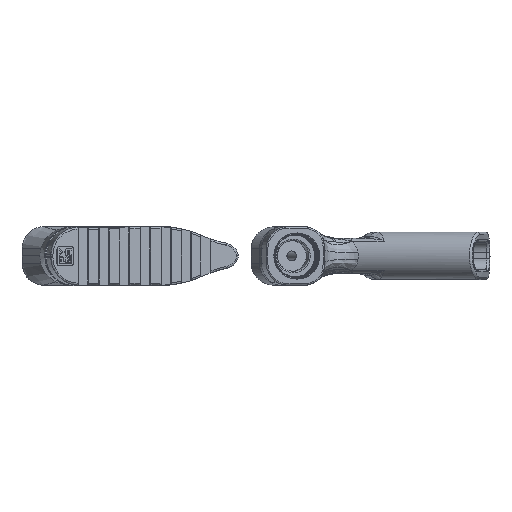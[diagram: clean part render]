
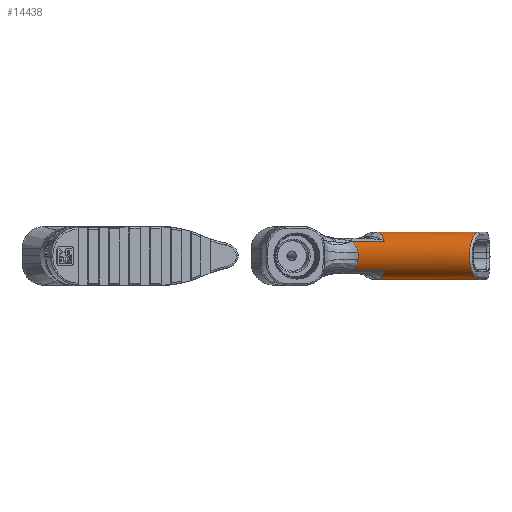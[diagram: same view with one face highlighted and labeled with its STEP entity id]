
A CAD part, left-side view. The second image highlights one B-rep face of the part: STEP entity #14438.
In plain terms, the highlighted cylindrical face has radius 15.5 mm (diameter 31 mm), a partial arc.
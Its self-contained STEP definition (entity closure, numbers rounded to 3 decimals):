
#184=CYLINDRICAL_SURFACE('',#15332,15.5);
#274=ELLIPSE('',#15333,18.411,15.5);
#1714=B_SPLINE_CURVE_WITH_KNOTS('',3,(#63915,#63916,#63917,#63918,#63919,
#63920,#63921,#63922,#63923,#63924,#63925,#63926,#63927),.UNSPECIFIED.,
 .F.,.F.,(4,2,1,1,1,1,2,1,4),(-8.607,-7.902,-7.306,
-6.71,-6.115,-5.519,-4.923,
-4.5,-4.218),.UNSPECIFIED.);
#1726=B_SPLINE_CURVE_WITH_KNOTS('',3,(#64604,#64605,#64606,#64607,#64608,
#64609,#64610),.UNSPECIFIED.,.F.,.F.,(4,1,1,1,4),(0.755,1.001,
1.124,1.369,1.615),.UNSPECIFIED.);
#1734=B_SPLINE_CURVE_WITH_KNOTS('',3,(#64800,#64801,#64802,#64803,#64804,
#64805),.UNSPECIFIED.,.F.,.F.,(4,1,1,4),(0.,0.369,
0.616,0.862),.UNSPECIFIED.);
#1743=B_SPLINE_CURVE_WITH_KNOTS('',3,(#65328,#65329,#65330,#65331,#65332,
#65333),.UNSPECIFIED.,.F.,.F.,(4,1,1,4),(0.,0.762,1.269,
1.777),.UNSPECIFIED.);
#1744=B_SPLINE_CURVE_WITH_KNOTS('',3,(#65337,#65338,#65339,#65340,#65341,
#65342),.UNSPECIFIED.,.F.,.F.,(4,1,1,4),(-1.803,-1.288,
-0.773,0.),.UNSPECIFIED.);
#1745=B_SPLINE_CURVE_WITH_KNOTS('',3,(#65343,#65344,#65345,#65346),
 .UNSPECIFIED.,.F.,.F.,(4,4),(2.126,2.129),
 .UNSPECIFIED.);
#1746=B_SPLINE_CURVE_WITH_KNOTS('',3,(#65349,#65350,#65351,#65352),
 .UNSPECIFIED.,.F.,.F.,(4,4),(1.569,1.621),
 .UNSPECIFIED.);
#2614=FACE_OUTER_BOUND('',#3480,.T.);
#3480=EDGE_LOOP('',(#12143,#12144,#12145,#12146,#12147,#12148,#12149,#12150,
#12151,#12152,#12153,#12154));
#4303=LINE('',#60931,#5150);
#4312=LINE('',#61598,#5159);
#4335=LINE('',#64774,#5182);
#4337=LINE('',#65348,#5184);
#5150=VECTOR('',#17128,10.);
#5159=VECTOR('',#17151,10.);
#5182=VECTOR('',#17304,10.);
#5184=VECTOR('',#17332,10.);
#6371=VERTEX_POINT('',#60925);
#6372=VERTEX_POINT('',#60930);
#6397=VERTEX_POINT('',#61542);
#6404=VERTEX_POINT('',#61597);
#6473=VERTEX_POINT('',#64420);
#6480=VERTEX_POINT('',#64680);
#6485=VERTEX_POINT('',#64773);
#6491=VERTEX_POINT('',#65326);
#6492=VERTEX_POINT('',#65327);
#6493=VERTEX_POINT('',#65334);
#6494=VERTEX_POINT('',#65336);
#6495=VERTEX_POINT('',#65347);
#8254=EDGE_CURVE('',#6372,#6371,#4303,.T.);
#8294=EDGE_CURVE('',#6404,#6397,#4312,.T.);
#8422=EDGE_CURVE('',#6372,#6397,#1714,.T.);
#8446=EDGE_CURVE('',#6473,#6371,#1726,.T.);
#8460=EDGE_CURVE('',#6485,#6480,#4335,.T.);
#8462=EDGE_CURVE('',#6404,#6480,#1734,.T.);
#8480=EDGE_CURVE('',#6491,#6492,#1743,.T.);
#8481=EDGE_CURVE('',#6493,#6491,#274,.T.);
#8482=EDGE_CURVE('',#6494,#6493,#1744,.T.);
#8483=EDGE_CURVE('',#6485,#6494,#1745,.T.);
#8484=EDGE_CURVE('',#6473,#6495,#4337,.T.);
#8485=EDGE_CURVE('',#6492,#6495,#1746,.T.);
#12143=ORIENTED_EDGE('',*,*,#8480,.F.);
#12144=ORIENTED_EDGE('',*,*,#8481,.F.);
#12145=ORIENTED_EDGE('',*,*,#8482,.F.);
#12146=ORIENTED_EDGE('',*,*,#8483,.F.);
#12147=ORIENTED_EDGE('',*,*,#8460,.T.);
#12148=ORIENTED_EDGE('',*,*,#8462,.F.);
#12149=ORIENTED_EDGE('',*,*,#8294,.T.);
#12150=ORIENTED_EDGE('',*,*,#8422,.F.);
#12151=ORIENTED_EDGE('',*,*,#8254,.T.);
#12152=ORIENTED_EDGE('',*,*,#8446,.F.);
#12153=ORIENTED_EDGE('',*,*,#8484,.T.);
#12154=ORIENTED_EDGE('',*,*,#8485,.F.);
#14438=ADVANCED_FACE('',(#2614),#184,.T.);
#15332=AXIS2_PLACEMENT_3D('',#65325,#17328,#17329);
#15333=AXIS2_PLACEMENT_3D('',#65335,#17330,#17331);
#17128=DIRECTION('',(0.292,0.956,0.));
#17151=DIRECTION('',(-0.292,-0.956,0.));
#17304=DIRECTION('',(-0.292,-0.956,0.));
#17328=DIRECTION('center_axis',(0.292,0.956,0.));
#17329=DIRECTION('ref_axis',(-0.676,0.207,0.707));
#17330=DIRECTION('center_axis',(-0.27,0.963,0.));
#17331=DIRECTION('ref_axis',(-0.963,-0.27,0.));
#17332=DIRECTION('',(0.292,0.956,0.));
#60925=CARTESIAN_POINT('',(271.995,87.164,88.372));
#60930=CARTESIAN_POINT('',(252.182,22.36,88.372));
#60931=CARTESIAN_POINT('',(256.424,36.235,88.372));
#61542=CARTESIAN_POINT('',(252.182,22.36,57.372));
#61597=CARTESIAN_POINT('',(271.995,87.164,57.372));
#61598=CARTESIAN_POINT('',(256.424,36.235,57.372));
#63915=CARTESIAN_POINT('Ctrl Pts',(252.182,22.36,88.372));
#63916=CARTESIAN_POINT('Ctrl Pts',(249.639,22.902,88.372));
#63917=CARTESIAN_POINT('Ctrl Pts',(247.122,23.604,87.71));
#63918=CARTESIAN_POINT('Ctrl Pts',(243.145,25.093,85.361));
#63919=CARTESIAN_POINT('Ctrl Pts',(240.034,26.474,82.407));
#63920=CARTESIAN_POINT('Ctrl Pts',(237.487,27.71,76.244));
#63921=CARTESIAN_POINT('Ctrl Pts',(237.484,27.711,69.501));
#63922=CARTESIAN_POINT('Ctrl Pts',(240.039,26.472,63.33));
#63923=CARTESIAN_POINT('Ctrl Pts',(243.157,25.085,60.373));
#63924=CARTESIAN_POINT('Ctrl Pts',(246.253,23.932,58.549));
#63925=CARTESIAN_POINT('Ctrl Pts',(248.64,23.168,57.628));
#63926=CARTESIAN_POINT('Ctrl Pts',(251.166,22.577,57.372));
#63927=CARTESIAN_POINT('Ctrl Pts',(252.182,22.36,57.372));
#64420=CARTESIAN_POINT('',(258.133,83.423,82.482));
#64604=CARTESIAN_POINT('Ctrl Pts',(258.133,83.423,82.482));
#64605=CARTESIAN_POINT('Ctrl Pts',(259.306,83.77,83.772));
#64606=CARTESIAN_POINT('Ctrl Pts',(261.149,84.328,85.212));
#64607=CARTESIAN_POINT('Ctrl Pts',(264.333,85.261,86.92));
#64608=CARTESIAN_POINT('Ctrl Pts',(267.665,86.188,88.038));
#64609=CARTESIAN_POINT('Ctrl Pts',(270.513,86.861,88.372));
#64610=CARTESIAN_POINT('Ctrl Pts',(271.995,87.164,88.372));
#64680=CARTESIAN_POINT('',(258.133,83.422,63.263));
#64773=CARTESIAN_POINT('',(264.677,104.828,63.263));
#64774=CARTESIAN_POINT('',(244.794,39.791,63.263));
#64800=CARTESIAN_POINT('Ctrl Pts',(271.995,87.164,57.372));
#64801=CARTESIAN_POINT('Ctrl Pts',(269.769,86.708,57.372));
#64802=CARTESIAN_POINT('Ctrl Pts',(266.276,85.825,57.979));
#64803=CARTESIAN_POINT('Ctrl Pts',(261.757,84.511,60.053));
#64804=CARTESIAN_POINT('Ctrl Pts',(259.299,83.768,61.98));
#64805=CARTESIAN_POINT('Ctrl Pts',(258.133,83.422,63.263));
#65325=CARTESIAN_POINT('Origin',(256.424,36.235,72.872));
#65326=CARTESIAN_POINT('',(260.026,100.529,75.));
#65327=CARTESIAN_POINT('',(264.492,104.715,82.295));
#65328=CARTESIAN_POINT('Ctrl Pts',(260.026,100.529,75.));
#65329=CARTESIAN_POINT('Ctrl Pts',(260.216,100.582,76.198));
#65330=CARTESIAN_POINT('Ctrl Pts',(260.906,101.077,78.151));
#65331=CARTESIAN_POINT('Ctrl Pts',(262.612,102.727,80.553));
#65332=CARTESIAN_POINT('Ctrl Pts',(263.835,104.011,81.744));
#65333=CARTESIAN_POINT('Ctrl Pts',(264.492,104.715,82.295));
#65334=CARTESIAN_POINT('',(260.045,100.534,70.629));
#65335=CARTESIAN_POINT('Origin',(277.586,105.452,72.872));
#65336=CARTESIAN_POINT('',(264.668,104.822,63.273));
#65337=CARTESIAN_POINT('Ctrl Pts',(264.668,104.822,63.273));
#65338=CARTESIAN_POINT('Ctrl Pts',(263.994,104.106,63.824));
#65339=CARTESIAN_POINT('Ctrl Pts',(262.735,102.796,65.02));
#65340=CARTESIAN_POINT('Ctrl Pts',(260.971,101.104,67.438));
#65341=CARTESIAN_POINT('Ctrl Pts',(260.248,100.591,69.414));
#65342=CARTESIAN_POINT('Ctrl Pts',(260.045,100.534,70.629));
#65343=CARTESIAN_POINT('Ctrl Pts',(264.677,104.828,63.263));
#65344=CARTESIAN_POINT('Ctrl Pts',(264.674,104.826,63.266));
#65345=CARTESIAN_POINT('Ctrl Pts',(264.671,104.824,63.269));
#65346=CARTESIAN_POINT('Ctrl Pts',(264.668,104.822,63.273));
#65347=CARTESIAN_POINT('',(264.677,104.827,82.482));
#65348=CARTESIAN_POINT('',(244.794,39.791,82.482));
#65349=CARTESIAN_POINT('Ctrl Pts',(264.492,104.715,82.295));
#65350=CARTESIAN_POINT('Ctrl Pts',(264.553,104.751,82.358));
#65351=CARTESIAN_POINT('Ctrl Pts',(264.615,104.789,82.42));
#65352=CARTESIAN_POINT('Ctrl Pts',(264.677,104.827,82.482));
